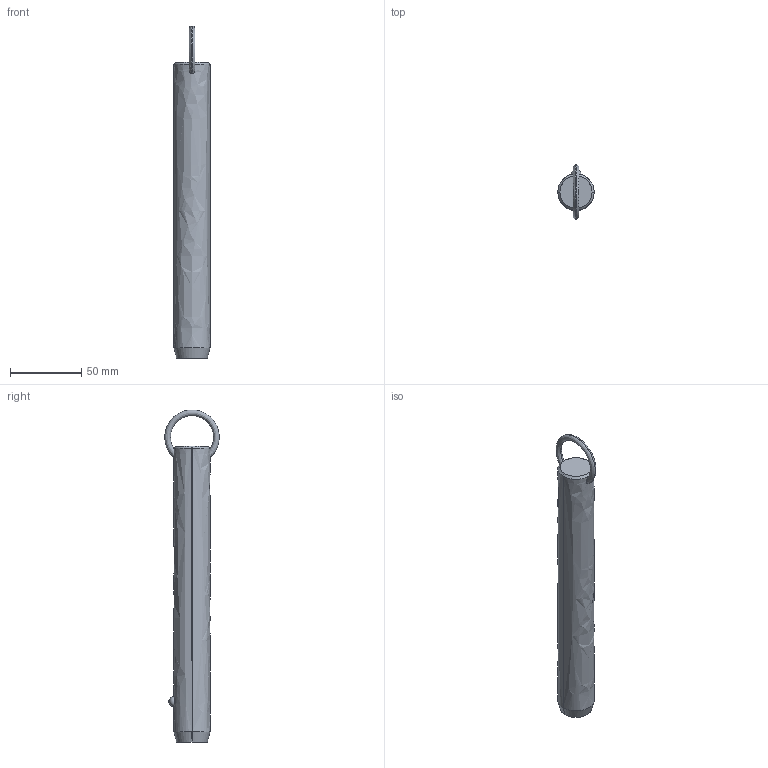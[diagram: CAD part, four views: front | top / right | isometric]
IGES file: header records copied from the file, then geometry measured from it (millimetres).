
Start section: SolidWorks IGES file using analytic representation for surfaces
Global section: file name: C:\Users\liam_\OneDrive\Documents\WORK\Work for WixRoyd\Job Files\J-00019 - Matt Davis CAD Checking\04. CAD Drawings\automotion20190605\P1250.2_v2\P1250.2_v2_20190729_IGES\P1250.100-640.igs; native system: SolidWorks 2017; preprocessor: SolidWorks 2017; author: liam_; date: 190730.174721; units: millimetre
Bounding box: 25.4 x 38.09 x 232.39 mm (x, y, z)
Surface area: 18291.2 mm2 (no closed solid volume)
Topology: 0 solids, 0 shells, 12 faces, 298 edges, 296 vertices
Faces by surface type: revolution 8, bspline 4
